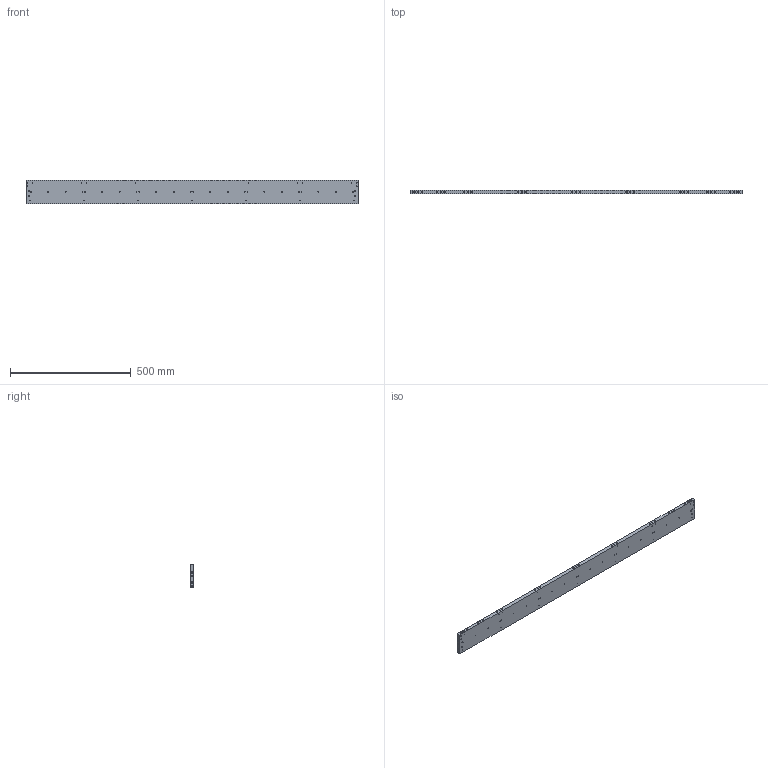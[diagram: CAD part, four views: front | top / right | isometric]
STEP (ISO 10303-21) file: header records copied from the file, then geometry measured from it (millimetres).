
FILE_DESCRIPTION(/* description */ (''),/* implementation_level */ '2;1');
FILE_NAME(/* name */ '171117_BRD_160224_BAR_STR_001_02_BODY_NEWSSSS.stp',/* time_stamp */ '2018-11-19T13:27:45+01:00',/* author */ (''),/* organization */ (''),/* preprocessor_version */ 'ST-DEVELOPER v16',/* originating_system */ 'SIEMENS PLM Software NX 11.0',/* authorisation */ '');
FILE_SCHEMA (('AP203_CONFIGURATION_CONTROLLED_3D_DESIGN_OF_MECHANICAL_PARTS_AND_ASSEMBLIES_MIM_LF { 1 0 10303 403 2 1 2}'));
Length unit declared in the file: millimetre
Products named in the file (1): zago31106C2Ffsqw
Bounding box: 1376 x 15 x 96 mm (x, y, z)
Volume: 1885950.6 mm3; surface area: 376654.8 mm2
Topology: 1 solids, 1 shells, 198 faces, 601 edges, 398 vertices
Faces by surface type: cylinder 113, cone 79, plane 6
Full cylindrical faces by diameter (mm): 2.05 x39, 4 x15, 4.2 x29, 5 x28, 6 x2
Entity records: 5642 total; most frequent: CARTESIAN_POINT 1262, DIRECTION 892, ORIENTED_EDGE 562, FACE_BOUND 531, EDGE_LOOP 488, AXIS2_PLACEMENT_3D 440, VERTEX_POINT 320, EDGE_CURVE 281
